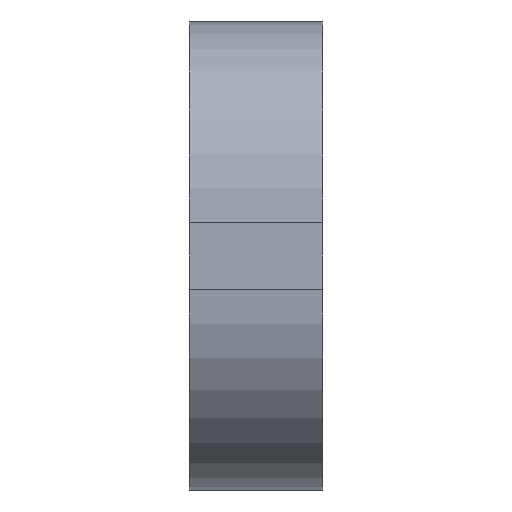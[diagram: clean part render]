
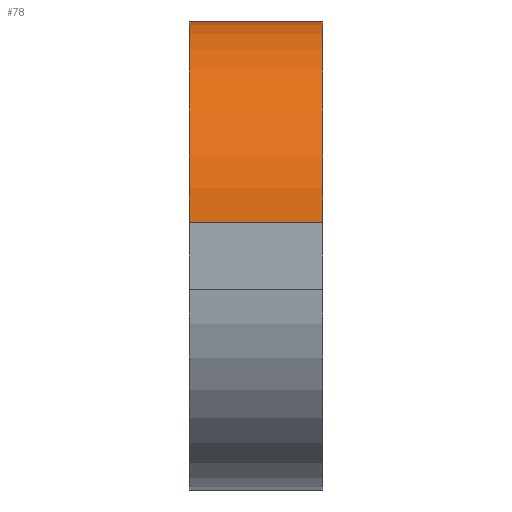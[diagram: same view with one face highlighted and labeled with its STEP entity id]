
A CAD part, left-side view. The second image highlights one B-rep face of the part: STEP entity #78.
In plain terms, the highlighted cylindrical face has radius 3 mm (diameter 6 mm), a partial arc.
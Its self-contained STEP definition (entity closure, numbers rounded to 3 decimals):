
#78=ADVANCED_FACE('',(#99),#86,.T.);
#86=CYLINDRICAL_SURFACE('',#422,3.);
#99=FACE_OUTER_BOUND('',#127,.T.);
#127=EDGE_LOOP('',(#274,#275,#276,#277));
#154=LINE('',#623,#184);
#157=LINE('',#627,#187);
#184=VECTOR('',#513,1.);
#187=VECTOR('',#518,1.);
#274=ORIENTED_EDGE('',*,*,#357,.F.);
#275=ORIENTED_EDGE('',*,*,#362,.F.);
#276=ORIENTED_EDGE('',*,*,#342,.F.);
#277=ORIENTED_EDGE('',*,*,#365,.F.);
#302=VERTEX_POINT('',#578);
#303=VERTEX_POINT('',#580);
#312=VERTEX_POINT('',#603);
#316=VERTEX_POINT('',#612);
#342=EDGE_CURVE('',#302,#303,#372,.T.);
#357=EDGE_CURVE('',#316,#312,#383,.T.);
#362=EDGE_CURVE('',#303,#316,#154,.T.);
#365=EDGE_CURVE('',#312,#302,#157,.T.);
#372=CIRCLE('',#397,3.);
#383=CIRCLE('',#413,3.);
#397=AXIS2_PLACEMENT_3D('',#579,#465,#466);
#413=AXIS2_PLACEMENT_3D('',#613,#501,#502);
#422=AXIS2_PLACEMENT_3D('',#633,#527,#528);
#465=DIRECTION('',(0.,-1.,0.));
#466=DIRECTION('',(0.,0.,-1.));
#501=DIRECTION('',(0.,1.,0.));
#502=DIRECTION('',(0.,0.,-1.));
#513=DIRECTION('',(0.,1.,0.));
#518=DIRECTION('',(0.,-1.,0.));
#527=DIRECTION('',(0.,-1.,0.));
#528=DIRECTION('',(0.,0.,-1.));
#578=CARTESIAN_POINT('',(26.5,18.1,200.15));
#579=CARTESIAN_POINT('',(26.5,18.1,197.15));
#580=CARTESIAN_POINT('',(23.5,18.1,197.15));
#603=CARTESIAN_POINT('',(26.5,20.1,200.15));
#612=CARTESIAN_POINT('',(23.5,20.1,197.15));
#613=CARTESIAN_POINT('',(26.5,20.1,197.15));
#623=CARTESIAN_POINT('',(23.5,19.1,197.15));
#627=CARTESIAN_POINT('',(26.5,19.1,200.15));
#633=CARTESIAN_POINT('',(26.5,19.1,197.15));
